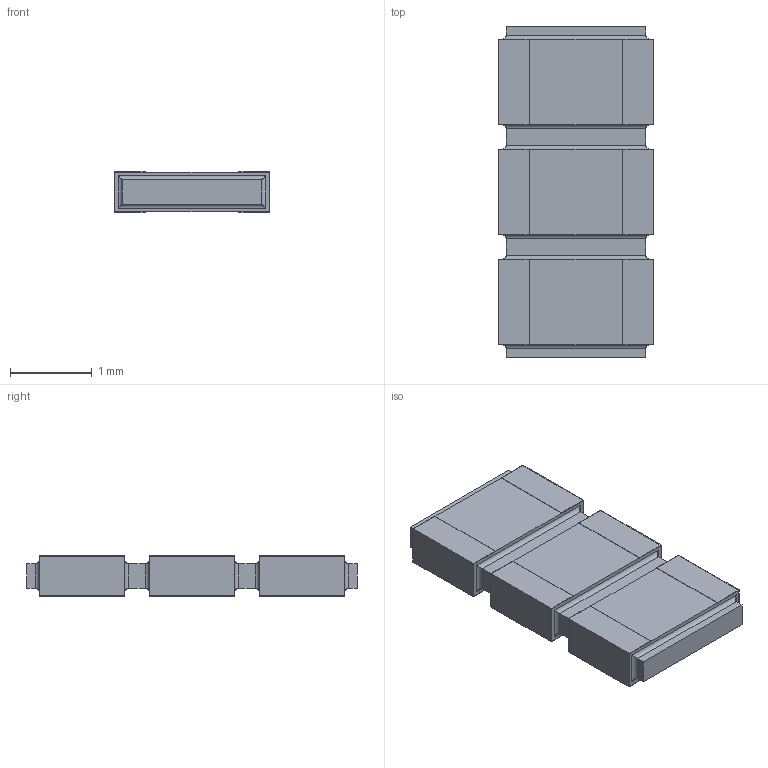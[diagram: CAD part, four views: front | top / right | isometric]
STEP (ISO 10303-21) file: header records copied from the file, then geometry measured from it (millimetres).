
FILE_DESCRIPTION(/* description */ (''),/* implementation_level */ '2;1');
FILE_NAME(/* name */ 'S:\DOCUMENT\AUTOCAD\3D_Modèles\10_3D-pour-VISHAY-COM\PRA\PRA135\PRA135-I2_à_I8\10_IGES\PRA135I3_B-or-N-or-G.stp',/* time_stamp */ '2017-12-18T12:06:15+01:00',/* author */ ('dparmentier'),/* organization */ ('unknown'),/* preprocessor_version */ 'ST-DEVELOPER v17',/* originating_system */ 'Autodesk Inventor 2018',/* authorisation */ '');
FILE_SCHEMA (('AUTOMOTIVE_DESIGN { 1 0 10303 214 3 1 1 }'));
Length unit declared in the file: millimetre
Products named in the file (1): PRA135I3_B-or-N-or-G
Bounding box: 1.91 x 4.05 x 0.5 mm (x, y, z)
Volume: 3.4 mm3; surface area: 37.6 mm2
Topology: 7 solids, 7 shells, 120 faces, 276 edges, 176 vertices
Faces by surface type: plane 96, cylinder 24
Entity records: 3359 total; most frequent: CARTESIAN_POINT 573, ORIENTED_EDGE 552, DIRECTION 542, EDGE_CURVE 276, LINE 252, VECTOR 252, VERTEX_POINT 176, AXIS2_PLACEMENT_3D 145
